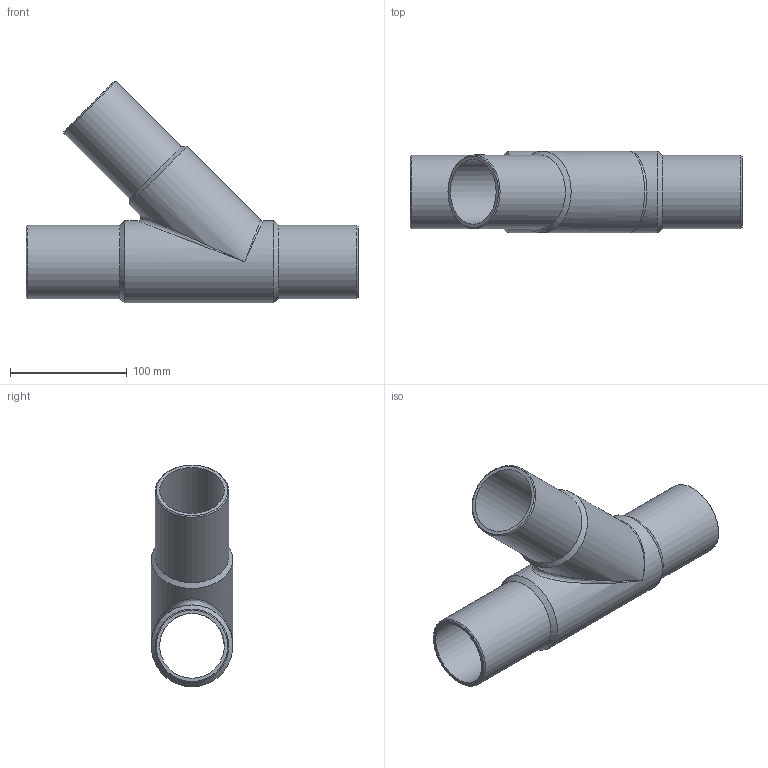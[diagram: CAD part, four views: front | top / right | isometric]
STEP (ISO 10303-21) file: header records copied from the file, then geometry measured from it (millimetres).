
FILE_DESCRIPTION(/* description */ ('Unknown'),/* implementation_level */ '2;1');
FILE_NAME(/* name */ 'T4P063B',/* time_stamp */ '2022-02-23T10:59:52+01:00',/* author */ ('Unknown'),/* organization */ ('Unknown'),/* preprocessor_version */ 'ST-DEVELOPER v18.1',/* originating_system */ 'Solid Edge',/* authorisation */ 'Unknown');
FILE_SCHEMA (('AUTOMOTIVE_DESIGN {1 0 10303 214 3 1 1}'));
Length unit declared in the file: millimetre
Products named in the file (1): T4P063B
Bounding box: 284 x 70 x 189.5 mm (x, y, z)
Volume: 425974.7 mm3; surface area: 160545.1 mm2
Topology: 1 solids, 1 shells, 18 faces, 47 edges, 26 vertices
Faces by surface type: cylinder 7, cone 6, plane 3, bspline 2
Full cylindrical faces by diameter (mm): 55.4 x2, 63 x3, 70 x2
Entity records: 516 total; most frequent: CARTESIAN_POINT 159, DIRECTION 76, ORIENTED_EDGE 42, AXIS2_PLACEMENT_3D 38, EDGE_LOOP 36, FACE_BOUND 36, EDGE_CURVE 21, VERTEX_POINT 19
